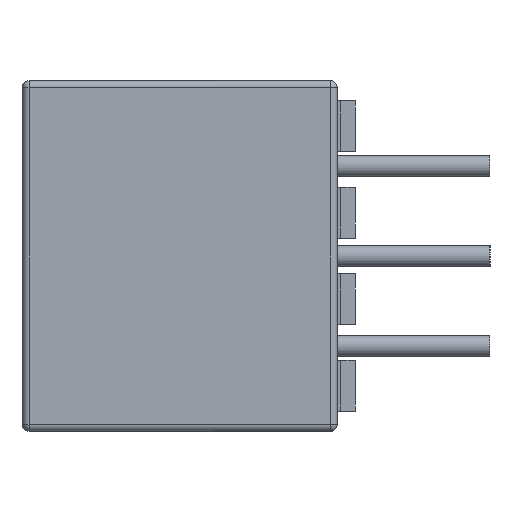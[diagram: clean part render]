
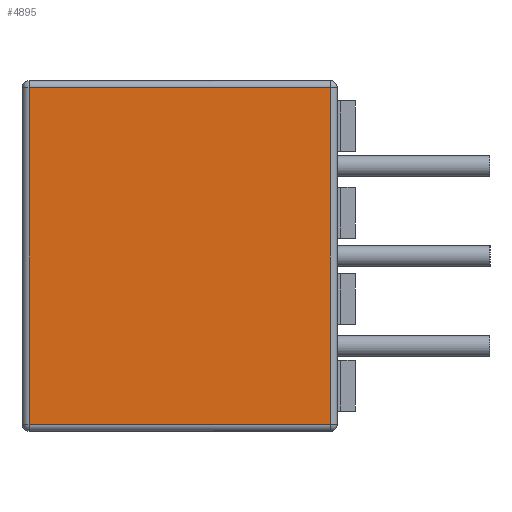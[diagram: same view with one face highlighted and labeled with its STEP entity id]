
A CAD part, left-side view. The second image highlights one B-rep face of the part: STEP entity #4895.
In plain terms, the highlighted planar face has unit normal (-1, 0, 0).
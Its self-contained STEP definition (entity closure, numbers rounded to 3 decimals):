
#4840 = EDGE_LOOP ( 'NONE', ( #4896, #4900, #4903, #4906 ) ) ;
#4880 = EDGE_CURVE ( 'NONE', #4905, #4898, #11987, .T. ) ;
#4895 = ADVANCED_FACE ( 'NONE', ( #11949 ), #11948, .T. ) ;
#4896 = ORIENTED_EDGE ( 'NONE', *, *, #4897, .T. ) ;
#4897 = EDGE_CURVE ( 'NONE', #4898, #4899, #12049, .T. ) ;
#4898 = VERTEX_POINT ( 'NONE', #12036 ) ;
#4899 = VERTEX_POINT ( 'NONE', #12034 ) ;
#4900 = ORIENTED_EDGE ( 'NONE', *, *, #4901, .T. ) ;
#4901 = EDGE_CURVE ( 'NONE', #4899, #4902, #12030, .T. ) ;
#4902 = VERTEX_POINT ( 'NONE', #12024 ) ;
#4903 = ORIENTED_EDGE ( 'NONE', *, *, #4904, .T. ) ;
#4904 = EDGE_CURVE ( 'NONE', #4902, #4905, #12019, .T. ) ;
#4905 = VERTEX_POINT ( 'NONE', #12013 ) ;
#4906 = ORIENTED_EDGE ( 'NONE', *, *, #4880, .T. ) ;
#11946 = AXIS2_PLACEMENT_3D ( 'NONE', #12048, #12046, #12044 ) ;
#11948 = PLANE ( 'NONE',  #11946 ) ;
#11949 = FACE_OUTER_BOUND ( 'NONE', #4840, .T. ) ;
#11984 = DIRECTION ( 'NONE',  ( 0., 1., 0. ) ) ;
#11985 = VECTOR ( 'NONE', #11984, 1000. ) ;
#11986 = CARTESIAN_POINT ( 'NONE',  ( -14.5, 0., 4.75 ) ) ;
#11987 = LINE ( 'NONE', #11986, #11985 ) ;
#12013 = CARTESIAN_POINT ( 'NONE',  ( -14.5, 0.2, 4.75 ) ) ;
#12015 = DIRECTION ( 'NONE',  ( 0., 0., 1. ) ) ;
#12017 = VECTOR ( 'NONE', #12015, 1000. ) ;
#12018 = CARTESIAN_POINT ( 'NONE',  ( -14.5, 0.2, 4.95 ) ) ;
#12019 = LINE ( 'NONE', #12018, #12017 ) ;
#12024 = CARTESIAN_POINT ( 'NONE',  ( -14.5, 0.2, -4.75 ) ) ;
#12025 = DIRECTION ( 'NONE',  ( 0., -1., 0. ) ) ;
#12027 = VECTOR ( 'NONE', #12025, 1000. ) ;
#12028 = CARTESIAN_POINT ( 'NONE',  ( -14.5, 0.004, -4.75 ) ) ;
#12030 = LINE ( 'NONE', #12028, #12027 ) ;
#12034 = CARTESIAN_POINT ( 'NONE',  ( -14.497, 8.69, -4.747 ) ) ;
#12036 = CARTESIAN_POINT ( 'NONE',  ( -14.497, 8.69, 4.747 ) ) ;
#12038 = DIRECTION ( 'NONE',  ( 0., 0., -1. ) ) ;
#12039 = VECTOR ( 'NONE', #12038, 1000. ) ;
#12041 = CARTESIAN_POINT ( 'NONE',  ( -14.497, 8.69, -4.947 ) ) ;
#12044 = DIRECTION ( 'NONE',  ( 0., -1., 0. ) ) ;
#12046 = DIRECTION ( 'NONE',  ( -1., 0., 0. ) ) ;
#12048 = CARTESIAN_POINT ( 'NONE',  ( -14.5, 0., 4.95 ) ) ;
#12049 = LINE ( 'NONE', #12041, #12039 ) ;
